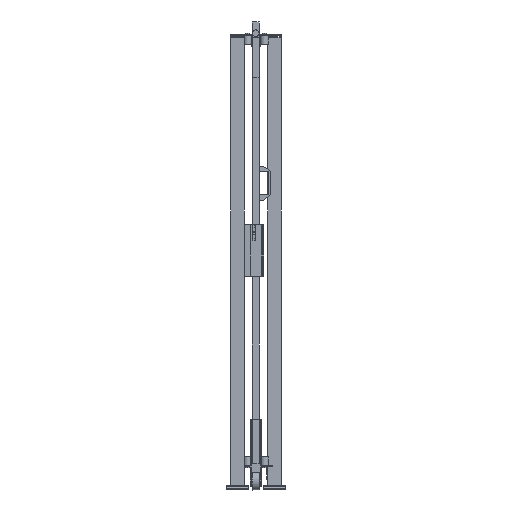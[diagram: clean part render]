
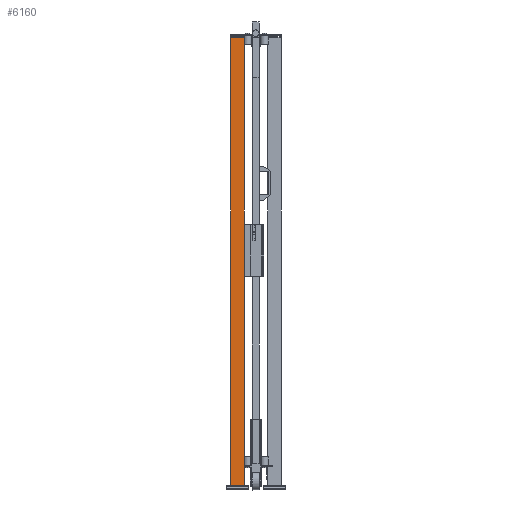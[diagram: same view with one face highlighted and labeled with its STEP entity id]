
A CAD part, left-side view. The second image highlights one B-rep face of the part: STEP entity #6160.
In plain terms, the highlighted planar face has unit normal (-1, 0, 0) as drawn and (0, 1, 0) by its records, which use the part's own axes.
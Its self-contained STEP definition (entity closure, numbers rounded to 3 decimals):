
#615=FACE_OUTER_BOUND('',#1088,.T.);
#1088=EDGE_LOOP('',(#3977,#3978,#3979,#3980));
#1634=VERTEX_POINT('',#13993);
#1635=VERTEX_POINT('',#13995);
#1637=VERTEX_POINT('',#14001);
#1640=VERTEX_POINT('',#14006);
#2532=EDGE_CURVE('',#1634,#1635,#7576,.T.);
#2538=EDGE_CURVE('',#1640,#1637,#7582,.T.);
#2541=EDGE_CURVE('',#1635,#1640,#7585,.T.);
#2542=EDGE_CURVE('',#1634,#1637,#7586,.T.);
#3977=ORIENTED_EDGE('',*,*,#2542,.T.);
#3978=ORIENTED_EDGE('',*,*,#2538,.F.);
#3979=ORIENTED_EDGE('',*,*,#2541,.F.);
#3980=ORIENTED_EDGE('',*,*,#2532,.F.);
#5731=PLANE('',#9681);
#6160=ADVANCED_FACE('',(#615),#5731,.F.);
#7576=LINE('',#13996,#8786);
#7582=LINE('',#14008,#8792);
#7585=LINE('',#14013,#8795);
#7586=LINE('',#14015,#8796);
#8786=VECTOR('',#10949,1.);
#8792=VECTOR('',#10957,1.);
#8795=VECTOR('',#10964,1.);
#8796=VECTOR('',#10967,1.);
#9681=AXIS2_PLACEMENT_3D('',#14014,#10965,#10966);
#10949=DIRECTION('',(-1.,0.,0.));
#10957=DIRECTION('',(1.,0.,0.));
#10964=DIRECTION('',(0.,0.,-1.));
#10965=DIRECTION('center_axis',(0.,-1.,0.));
#10966=DIRECTION('ref_axis',(0.,0.,-1.));
#10967=DIRECTION('',(0.,0.,-1.));
#13993=CARTESIAN_POINT('',(30.,30.,2020.));
#13995=CARTESIAN_POINT('',(-30.,30.,2020.));
#13996=CARTESIAN_POINT('',(0.,30.,2020.));
#14001=CARTESIAN_POINT('',(30.,30.,20.));
#14006=CARTESIAN_POINT('',(-30.,30.,20.));
#14008=CARTESIAN_POINT('',(0.,30.,20.));
#14013=CARTESIAN_POINT('',(-30.,30.,1020.));
#14014=CARTESIAN_POINT('Origin',(0.,30.,
1020.));
#14015=CARTESIAN_POINT('',(30.,30.,1020.));
